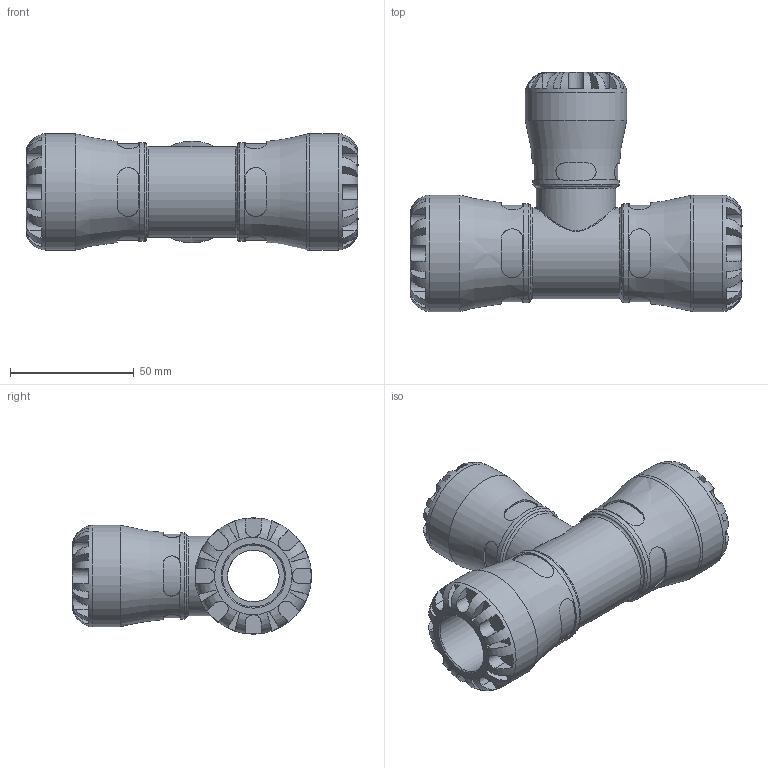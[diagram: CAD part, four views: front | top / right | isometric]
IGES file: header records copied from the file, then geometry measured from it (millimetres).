
Global section: file name: 103400025020_193400025020.ipt; native system: Autodesk Inventor 2015; preprocessor: unknown; author: KIM; date: 20170122.114054; units: millimetre
Bounding box: 134 x 96.5 x 47 mm (x, y, z)
Volume: 159109.8 mm3; surface area: 43883.3 mm2
Topology: 1 solids, 1 shells, 287 faces, 757 edges, 482 vertices
Faces by surface type: plane 174, revolution 68, cylinder 44, bspline 1
Full cylindrical faces by diameter (mm): 31.98 x1, 34.85 x1, 36.66 x1, 39.95 x2, 41 x1, 47 x2
